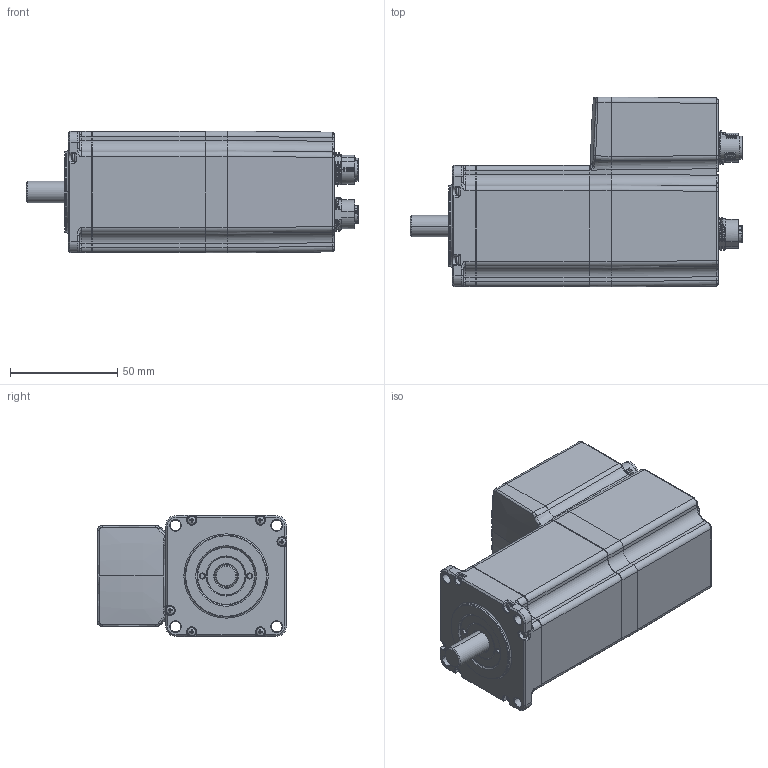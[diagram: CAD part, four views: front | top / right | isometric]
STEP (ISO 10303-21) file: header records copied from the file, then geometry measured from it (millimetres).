
FILE_DESCRIPTION((''),'2;1');
FILE_NAME('STEPPERASSY_ASM','2023-03-22T13:42:20',('Administrator'),(''),'CREO PARAMETRIC BY PTC INC, 2022014','CREO PARAMETRIC BY PTC INC, 2022014','');
FILE_SCHEMA(('AUTOMOTIVE_DESIGN { 1 0 10303 214 1 1 1 1 }'));
Products named in the file (8): FRONT_CAP_1; STATOR; AXIAL_CON; SHAFT_1; LOCK_NUT_1; SEALING_1; FAST_S; STEPPERASSY_ASM
Assembly tree (12 placements, depth 2):
  STEPPERASSY_ASM
    FRONT_CAP_1
    STATOR
    AXIAL_CON
    SHAFT_1
    LOCK_NUT_1
    SEALING_1
    FAST_S  x6
Bounding box: 154.7 x 88.42 x 56.67 mm (x, y, z)
Volume: 444765.7 mm3; surface area: 61522.5 mm2
Topology: 13 solids, 14 shells, 2054 faces, 5092 edges, 3135 vertices
Faces by surface type: plane 769, cylinder 576, bspline 266, cone 222, torus 186, sphere 33, extrusion 2
Entity records: 101678 total; most frequent: CARTESIAN_POINT 35645, ORIENTED_EDGE 9120, DIRECTION 8737, PRESENTATION_STYLE_ASSIGNMENT 4940, EDGE_CURVE 4562, STYLED_ITEM 4312, CURVE_STYLE 4085, AXIS2_PLACEMENT_3D 3255
